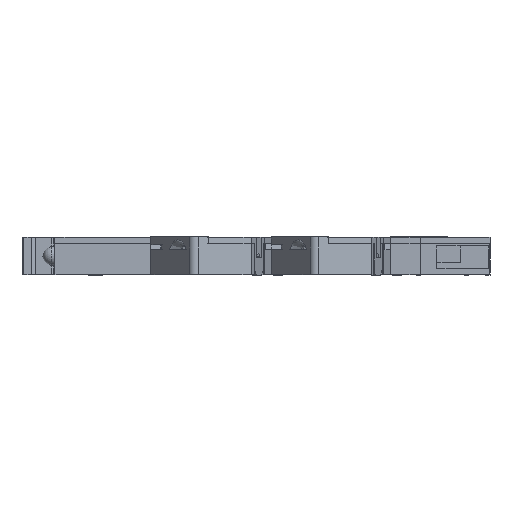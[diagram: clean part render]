
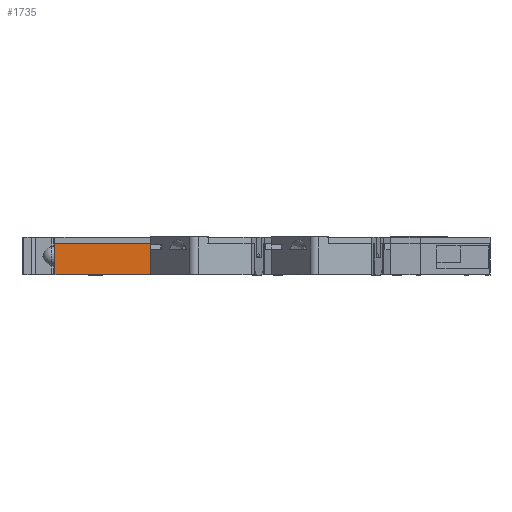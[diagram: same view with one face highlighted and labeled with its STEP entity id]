
A CAD part, left-side view. The second image highlights one B-rep face of the part: STEP entity #1735.
In plain terms, the highlighted planar face has unit normal (-1, 0, 0).
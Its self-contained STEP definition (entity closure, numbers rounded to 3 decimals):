
#1735=ADVANCED_FACE('',(#4389),#3077,.F.);
#3077=PLANE('',#27982);
#4389=FACE_OUTER_BOUND('',#5749,.T.);
#5749=EDGE_LOOP('',(#9105,#9106,#9107,#9108));
#9105=ORIENTED_EDGE('',*,*,#18030,.T.);
#9106=ORIENTED_EDGE('',*,*,#18031,.F.);
#9107=ORIENTED_EDGE('',*,*,#18032,.F.);
#9108=ORIENTED_EDGE('',*,*,#17902,.T.);
#15103=VERTEX_POINT('',#38229);
#15104=VERTEX_POINT('',#38231);
#15176=VERTEX_POINT('',#38490);
#15177=VERTEX_POINT('',#38492);
#17902=EDGE_CURVE('',#15104,#15103,#21545,.T.);
#18030=EDGE_CURVE('',#15103,#15176,#21665,.T.);
#18031=EDGE_CURVE('',#15177,#15176,#21666,.T.);
#18032=EDGE_CURVE('',#15104,#15177,#21667,.T.);
#21545=LINE('',#38230,#25085);
#21665=LINE('',#38489,#25205);
#21666=LINE('',#38491,#25206);
#21667=LINE('',#38493,#25207);
#25085=VECTOR('',#31207,1.);
#25205=VECTOR('',#31445,1.);
#25206=VECTOR('',#31446,1.);
#25207=VECTOR('',#31447,1.);
#27982=AXIS2_PLACEMENT_3D('',#38494,#31448,#31449);
#31207=DIRECTION('',(0.,0.,1.));
#31445=DIRECTION('',(0.,1.,0.));
#31446=DIRECTION('',(0.,0.,1.));
#31447=DIRECTION('',(0.,1.,0.));
#31448=DIRECTION('',(1.,0.,0.));
#31449=DIRECTION('',(0.,0.,-1.));
#38229=CARTESIAN_POINT('',(-120.64,-35.224,4.1));
#38230=CARTESIAN_POINT('',(-120.64,-35.224,-1.));
#38231=CARTESIAN_POINT('',(-120.64,-35.224,-1.));
#38489=CARTESIAN_POINT('',(-120.64,-35.224,4.1));
#38490=CARTESIAN_POINT('',(-120.64,-19.524,4.1));
#38491=CARTESIAN_POINT('',(-120.64,-19.524,-1.));
#38492=CARTESIAN_POINT('',(-120.64,-19.524,-1.));
#38493=CARTESIAN_POINT('',(-120.64,-35.224,-1.));
#38494=CARTESIAN_POINT('',(-120.64,-35.224,-1.));
